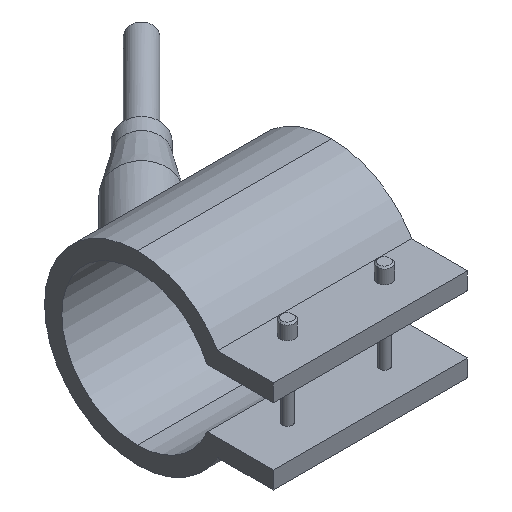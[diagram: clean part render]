
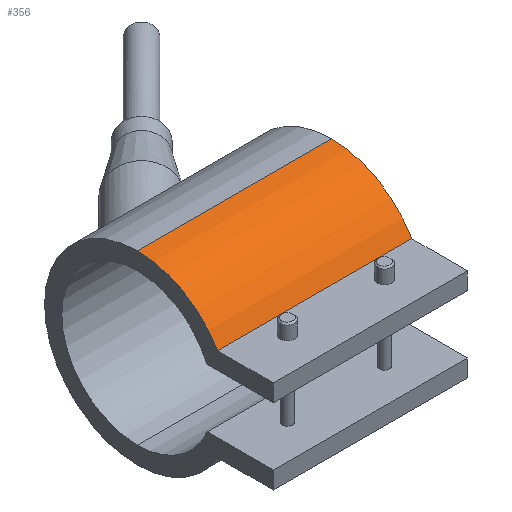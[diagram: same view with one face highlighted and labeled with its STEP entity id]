
A CAD part, isometric view. The second image highlights one B-rep face of the part: STEP entity #356.
In plain terms, the highlighted cylindrical face has radius 21.5 mm (diameter 43 mm), a partial arc.
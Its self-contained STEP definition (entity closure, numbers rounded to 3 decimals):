
#236=CARTESIAN_POINT('Line Origine',(22.5,0.,21.5)) ;
#240=CARTESIAN_POINT('Vertex',(22.5,0.,21.5)) ;
#242=CARTESIAN_POINT('Vertex',(-22.5,0.,21.5)) ;
#326=CARTESIAN_POINT('Axis2P3D Location',(22.5,0.,0.)) ;
#331=CARTESIAN_POINT('Axis2P3D Location',(-22.5,0.,0.)) ;
#335=CARTESIAN_POINT('Vertex',(-22.5,-18.62,10.75)) ;
#338=CARTESIAN_POINT('Line Origine',(22.5,-18.62,10.75)) ;
#342=CARTESIAN_POINT('Vertex',(22.5,-18.62,10.75)) ;
#345=CARTESIAN_POINT('Axis2P3D Location',(22.5,0.,0.)) ;
#237=DIRECTION('Vector Direction',(1.,0.,0.)) ;
#327=DIRECTION('Axis2P3D Direction',(1.,0.,-0.)) ;
#328=DIRECTION('Axis2P3D XDirection',(0.,0.,1.)) ;
#332=DIRECTION('Axis2P3D Direction',(1.,0.,-0.)) ;
#339=DIRECTION('Vector Direction',(1.,0.,0.)) ;
#346=DIRECTION('Axis2P3D Direction',(1.,0.,-0.)) ;
#329=AXIS2_PLACEMENT_3D('Cylinder Axis2P3D',#326,#327,#328) ;
#333=AXIS2_PLACEMENT_3D('Circle Axis2P3D',#331,#332,$) ;
#347=AXIS2_PLACEMENT_3D('Circle Axis2P3D',#345,#346,$) ;
#351=ORIENTED_EDGE('',*,*,#244,.T.) ;
#352=ORIENTED_EDGE('',*,*,#337,.T.) ;
#353=ORIENTED_EDGE('',*,*,#344,.F.) ;
#354=ORIENTED_EDGE('',*,*,#349,.F.) ;
#238=VECTOR('Line Direction',#237,1.) ;
#340=VECTOR('Line Direction',#339,1.) ;
#356=ADVANCED_FACE('29035045',(#355),#330,.T.) ;
#334=CIRCLE('generated circle',#333,21.5) ;
#348=CIRCLE('generated circle',#347,21.5) ;
#330=CYLINDRICAL_SURFACE('generated cylinder',#329,21.5) ;
#244=EDGE_CURVE('',#241,#243,#239,.F.) ;
#337=EDGE_CURVE('',#243,#336,#334,.T.) ;
#344=EDGE_CURVE('',#343,#336,#341,.F.) ;
#349=EDGE_CURVE('',#241,#343,#348,.T.) ;
#350=EDGE_LOOP('',(#351,#352,#353,#354)) ;
#355=FACE_OUTER_BOUND('',#350,.T.) ;
#239=LINE('Line',#236,#238) ;
#341=LINE('Line',#338,#340) ;
#241=VERTEX_POINT('',#240) ;
#243=VERTEX_POINT('',#242) ;
#336=VERTEX_POINT('',#335) ;
#343=VERTEX_POINT('',#342) ;
